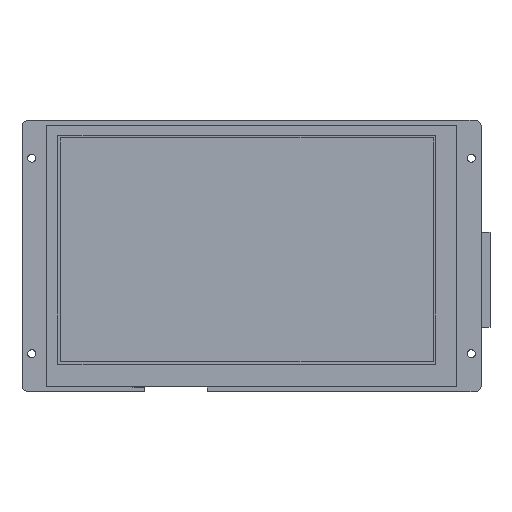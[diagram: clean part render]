
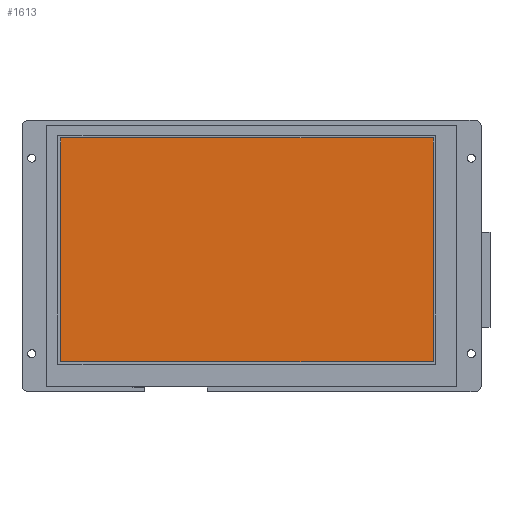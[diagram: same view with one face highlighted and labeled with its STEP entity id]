
A CAD part, top view. The second image highlights one B-rep face of the part: STEP entity #1613.
In plain terms, the highlighted planar face has unit normal (0, 0, 1).
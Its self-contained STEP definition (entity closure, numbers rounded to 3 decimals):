
#500=DIRECTION('',(0.,-1.,0.));
#501=VECTOR('',#500,91.44);
#502=CARTESIAN_POINT('',(-76.2,45.72,12.1));
#503=LINE('',#502,#501);
#504=DIRECTION('',(-1.,0.,0.));
#505=VECTOR('',#504,152.4);
#506=CARTESIAN_POINT('',(76.2,45.72,12.1));
#507=LINE('',#506,#505);
#508=DIRECTION('',(0.,1.,0.));
#509=VECTOR('',#508,91.44);
#510=CARTESIAN_POINT('',(76.2,-45.72,12.1));
#511=LINE('',#510,#509);
#512=DIRECTION('',(1.,0.,0.));
#513=VECTOR('',#512,152.4);
#514=CARTESIAN_POINT('',(-76.2,-45.72,12.1));
#515=LINE('',#514,#513);
#1056=CARTESIAN_POINT('',(-76.2,45.72,12.1));
#1057=CARTESIAN_POINT('',(-76.2,-45.72,12.1));
#1058=VERTEX_POINT('',#1056);
#1059=VERTEX_POINT('',#1057);
#1060=CARTESIAN_POINT('',(76.2,-45.72,12.1));
#1061=VERTEX_POINT('',#1060);
#1062=CARTESIAN_POINT('',(76.2,45.72,12.1));
#1063=VERTEX_POINT('',#1062);
#1602=CARTESIAN_POINT('',(0.,0.,12.1));
#1603=DIRECTION('',(0.,0.,1.));
#1604=DIRECTION('',(1.,0.,0.));
#1605=AXIS2_PLACEMENT_3D('',#1602,#1603,#1604);
#1606=PLANE('',#1605);
#1607=ORIENTED_EDGE('',*,*,#1554,.F.);
#1608=ORIENTED_EDGE('',*,*,#1569,.F.);
#1609=ORIENTED_EDGE('',*,*,#1583,.F.);
#1610=ORIENTED_EDGE('',*,*,#1596,.F.);
#1611=EDGE_LOOP('',(#1607,#1608,#1609,#1610));
#1612=FACE_OUTER_BOUND('',#1611,.F.);
#1554=EDGE_CURVE('',#1058,#1059,#503,.T.);
#1569=EDGE_CURVE('',#1063,#1058,#507,.T.);
#1583=EDGE_CURVE('',#1061,#1063,#511,.T.);
#1596=EDGE_CURVE('',#1059,#1061,#515,.T.);
#1613=ADVANCED_FACE('',(#1612),#1606,.T.);
